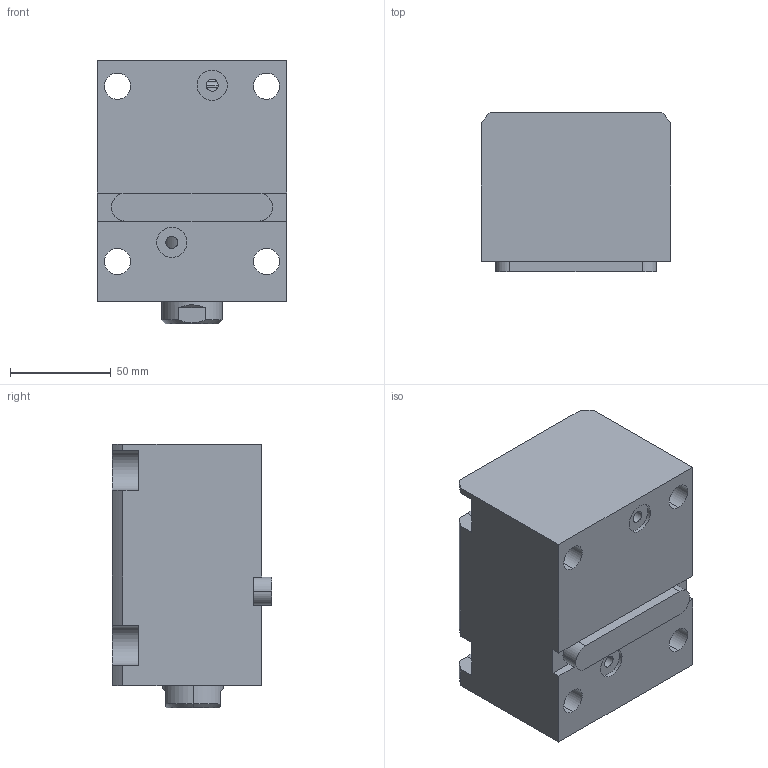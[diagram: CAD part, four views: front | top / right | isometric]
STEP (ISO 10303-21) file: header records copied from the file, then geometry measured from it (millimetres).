
FILE_DESCRIPTION (( 'STEP AP203' ), '1' );
FILE_NAME ('CHTB-LAM50-60N.STEP', '2018-05-23T10:43:17', ( '' ), ( '' ), 'SwSTEP 2.0', 'SolidWorks 2015', '' );
FILE_SCHEMA (( 'CONFIG_CONTROL_DESIGN' ));
Length unit declared in the file: millimetre
Products named in the file (4): CHTM-SDMA50QG; CHTB-LAM50-60N; 活塞杆LAM50-60N; 掛极LAM50-60N
Assembly tree (3 placements, depth 2):
  CHTB-LAM50-60N
    掛极LAM50-60N
    活塞杆LAM50-60N
    CHTM-SDMA50QG
Bounding box: 94 x 79 x 131 mm (x, y, z)
Volume: 704449.6 mm3; surface area: 118042 mm2
Topology: 3 solids, 3 shells, 192 faces, 524 edges, 347 vertices
Faces by surface type: cylinder 96, plane 51, torus 16, cone 15, bspline 14
Entity records: 11011 total; most frequent: CARTESIAN_POINT 5956, ORIENTED_EDGE 1036, DIRECTION 908, EDGE_CURVE 518, AXIS2_PLACEMENT_3D 356, VERTEX_POINT 347, EDGE_LOOP 221, VECTOR 196
